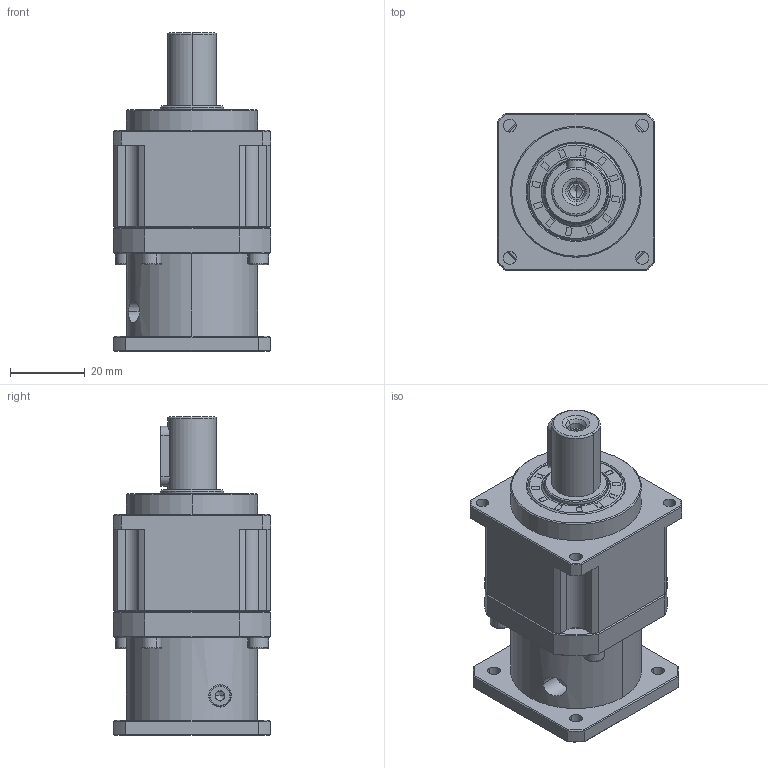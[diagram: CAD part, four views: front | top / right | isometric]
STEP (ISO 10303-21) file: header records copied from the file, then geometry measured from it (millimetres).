
FILE_DESCRIPTION (( 'STEP AP214' ), '1' );
FILE_NAME ('ZPB042-D13-L1-P1-5-22-31X31-朴3.5.step', '2024-04-10T05:30:52', ( 'Windows 蚚誧' ), ( 'Organization' ), 'SwSTEP 2.0', 'SolidWorks 2016', '' );
FILE_SCHEMA (( 'AUTOMOTIVE_DESIGN' ));
Length unit declared in the file: millimetre
Products named in the file (1): ZPB042-D13-L1-P1-5-22-31X31-朴3.5
Bounding box: 42 x 42 x 85 mm (x, y, z)
Volume: 71515 mm3; surface area: 36670.9 mm2
Topology: 11 solids, 11 shells, 1515 faces, 4070 edges, 2621 vertices
Faces by surface type: plane 645, bspline 443, cylinder 214, cone 207, torus 6
Entity records: 80149 total; most frequent: CARTESIAN_POINT 28170, ORIENTED_EDGE 8084, DIRECTION 6030, EDGE_CURVE 4042, VERTEX_POINT 2621, LINE 2172, VECTOR 2172, AXIS2_PLACEMENT_3D 1929
